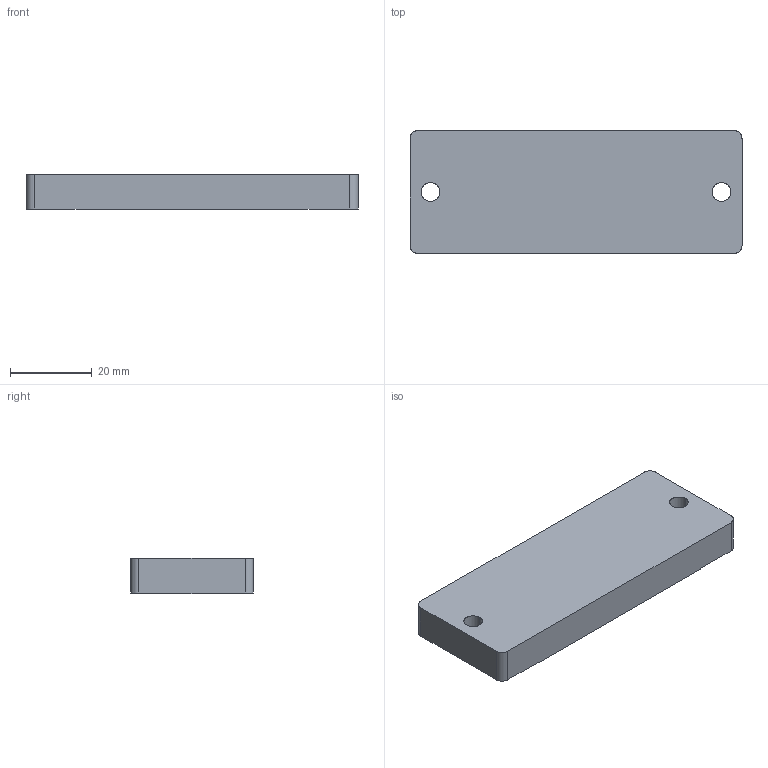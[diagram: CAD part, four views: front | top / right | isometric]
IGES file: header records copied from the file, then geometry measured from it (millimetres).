
Start section: SolidWorks IGES file using analytic representation for surfaces
Global section: file name: G:\02\0209\CAD\020941k\0209410d.IGS; native system: SolidWorks 2010; preprocessor: SolidWorks 2010; author: isteiner; date: 121116.105441; units: millimetre
Bounding box: 81 x 30 x 8.7 mm (x, y, z)
Surface area: 6982.4 mm2 (no closed solid volume)
Topology: 0 solids, 0 shells, 24 faces, 416 edges, 416 vertices
Faces by surface type: revolution 12, bspline 12
